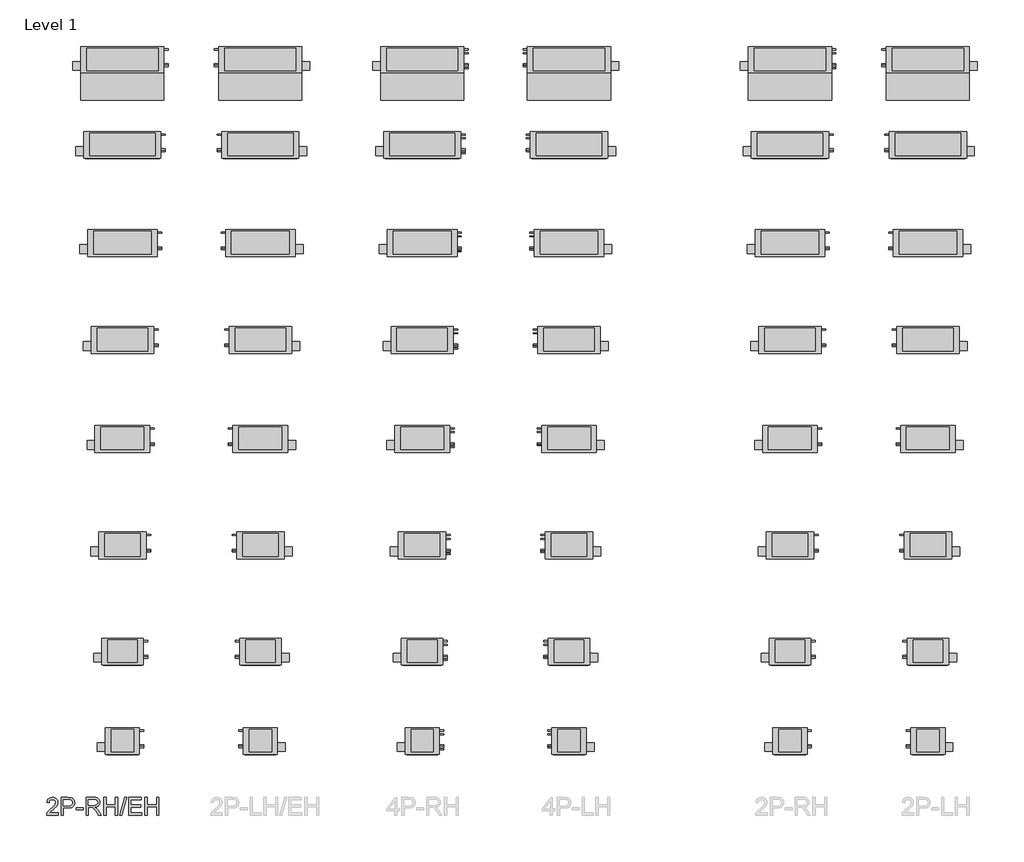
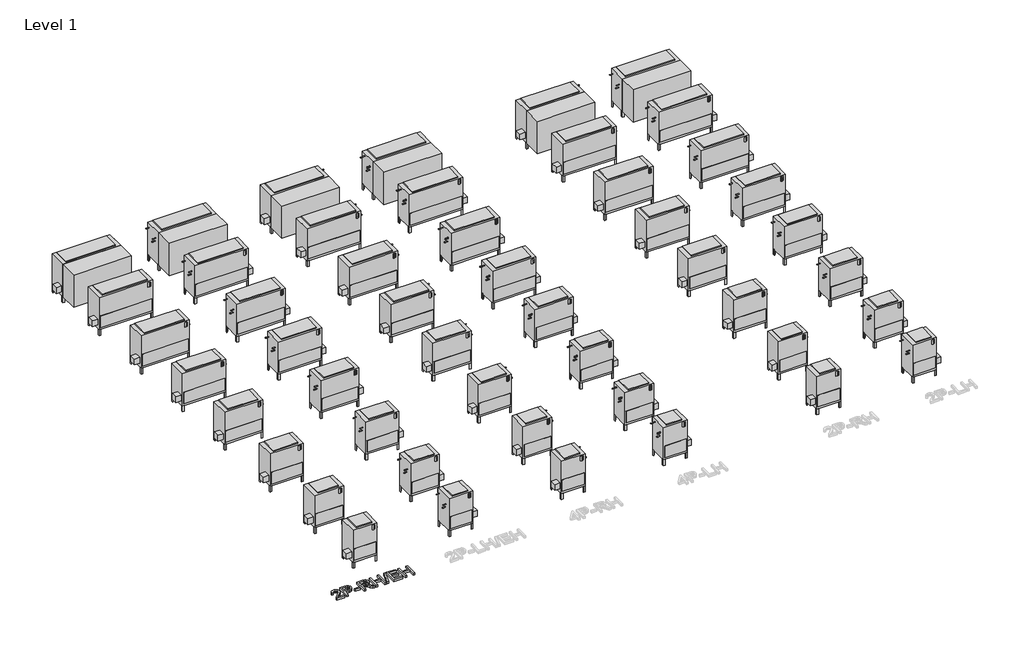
# One storey, part 1 of 2: 49 proxies.
"""IFC4 building model written with IfcOpenShell, lengths in millimetres."""

from ifc_helpers import new_model, si_unit, origin, origin_with_axes, place, context, project, spatial, polyline, outline, extrude, transform, mapped, element, save
from components import mechanical_equipment_c3129180, mechanical_equipment_9b5daf84, mechanical_equipment_52d6ed6b, mechanical_equipment_69e2358a, mechanical_equipment_129ce4c1, mechanical_equipment_91e453f3, mechanical_equipment_4a43bcff, mechanical_equipment_c1bae313, mechanical_equipment_e2ab2f36, mechanical_equipment_ac9d1e8d, mechanical_equipment_70a036e3, mechanical_equipment_6edb243e, mechanical_equipment_3f06e7ef, mechanical_equipment_87862ee8, mechanical_equipment_eca6bfd6, mechanical_equipment_3bcbda2f, mechanical_equipment_fc6682ea, mechanical_equipment_db1e9333, mechanical_equipment_a16d7c03, mechanical_equipment_5b6f974a, mechanical_equipment_4775b9d9, mechanical_equipment_dd0b7da7, mechanical_equipment_b1bf49b5, mechanical_equipment_4bd6c970, mechanical_equipment_8c8115f7, mechanical_equipment_8127be51, mechanical_equipment_42458b22, mechanical_equipment_c711a6c3, mechanical_equipment_d625a45f, mechanical_equipment_3394728d, mechanical_equipment_c5dd5ee2, mechanical_equipment_466fcba0

model = new_model("IFC4")

# Units and contexts
model_context = context("Model", 3, world=origin())
ifc_project = project(units=[si_unit("LENGTHUNIT", "METRE", prefix="MILLI")], contexts=[model_context])

# Site, building, storey
site = spatial("IfcSite", under=ifc_project)
building = spatial("IfcBuilding", under=site)
storey = spatial("IfcBuildingStorey", under=building, Name="Level 1", Elevation=0.0)

# Proxies
placement = place(None, origin())
mechanical_equipment_shape = mechanical_equipment_c3129180(model_context)
element("IfcBuildingElementProxy", 1, Name="Concealed_High_Capacity_Vertical_Fan_Coil_Unit_-_VEY_-_IEC_-_2-Pipe_Cool-EHeat_RH_2022 : Size 20 - 277v/60Hz/1Ph - 6 Row 14.0kW", ObjectType="Concealed_High_Capacity_Vertical_Fan_Coil_Unit_-_VEY_-_IEC_-_2-Pipe_Cool-EHeat_RH_2022 : Size 20 - 277v/60Hz/1Ph - 6 Row 14.0kW", at=placement, inside=storey, context=model_context, shape_type="MappedRepresentation", body=[
    mapped(mechanical_equipment_shape, transform((-23877.766512, 2326.9692455, 0.0), x_axis=(1.0, 0.0, 0.0), y_axis=(0.0, 1.0, 0.0), z_axis=(0.0, 0.0, 1.0))),
])
mechanical_equipment_2_shape = mechanical_equipment_9b5daf84(model_context)
element("IfcBuildingElementProxy", 2, Name="Concealed_High_Capacity_Vertical_Fan_Coil_Unit_-_VEY_-_IEC_-_4-Pipe_RH_2022 : Size 20 - 277v/60Hz/1Ph - 4/2 Coil", ObjectType="Concealed_High_Capacity_Vertical_Fan_Coil_Unit_-_VEY_-_IEC_-_4-Pipe_RH_2022 : Size 20 - 277v/60Hz/1Ph - 4/2 Coil", at=placement, inside=storey, context=model_context, shape_type="MappedRepresentation", body=[
    mapped(mechanical_equipment_2_shape, transform((-18745.6021227, 2326.9692455, 0.0), x_axis=(1.0, 0.0, 0.0), y_axis=(0.0, 1.0, 0.0), z_axis=(0.0, 0.0, 1.0))),
])
element("IfcBuildingElementProxy", 3, Name="Concealed_High_Capacity_Vertical_Fan_Coil_Unit_-_VEY_-_IEC_-_4-Pipe_RH_2022 : Size 20 - 277v/60Hz/1Ph - 4/2 Coil", ObjectType="Concealed_High_Capacity_Vertical_Fan_Coil_Unit_-_VEY_-_IEC_-_4-Pipe_RH_2022 : Size 20 - 277v/60Hz/1Ph - 4/2 Coil", at=placement, inside=storey, context=model_context, shape_type="MappedRepresentation", body=[
    mapped(mechanical_equipment_2_shape, transform((-12447.766512, 2326.9692455, 0.0), x_axis=(1.0, 0.0, 0.0), y_axis=(0.0, 1.0, 0.0), z_axis=(0.0, 0.0, 1.0))),
])
mechanical_equipment_3_shape = mechanical_equipment_52d6ed6b(model_context)
element("IfcBuildingElementProxy", 4, Name="Concealed_High_Capacity_Vertical_Fan_Coil_Unit_-_VEY_-_IEC_-_2-Pipe_Cool-EHeat_RH_2022 : Size 18 - 277v/60Hz/1Ph - 6 Row 12.0kW", ObjectType="Concealed_High_Capacity_Vertical_Fan_Coil_Unit_-_VEY_-_IEC_-_2-Pipe_Cool-EHeat_RH_2022 : Size 18 - 277v/60Hz/1Ph - 6 Row 12.0kW", at=placement, inside=storey, context=model_context, shape_type="MappedRepresentation", body=[
    mapped(mechanical_equipment_3_shape, transform((-23877.766512, 870.7442724, 0.0), x_axis=(1.0, 0.0, 0.0), y_axis=(0.0, 1.0, 0.0), z_axis=(0.0, 0.0, 1.0))),
])
mechanical_equipment_4_shape = mechanical_equipment_69e2358a(model_context)
element("IfcBuildingElementProxy", 5, Name="Concealed_High_Capacity_Vertical_Fan_Coil_Unit_-_VEY_-_IEC_-_2-Pipe_Cool-EHeat_RH_2022 : Size 16 - 277v/60Hz/1Ph - 6 Row 12.0kW", ObjectType="Concealed_High_Capacity_Vertical_Fan_Coil_Unit_-_VEY_-_IEC_-_2-Pipe_Cool-EHeat_RH_2022 : Size 16 - 277v/60Hz/1Ph - 6 Row 12.0kW", at=placement, inside=storey, context=model_context, shape_type="MappedRepresentation", body=[
    mapped(mechanical_equipment_4_shape, transform((-23877.766512, -811.0930206, 0.0), x_axis=(1.0, 0.0, 0.0), y_axis=(0.0, 1.0, 0.0), z_axis=(0.0, 0.0, 1.0))),
])
mechanical_equipment_5_shape = mechanical_equipment_129ce4c1(model_context)
element("IfcBuildingElementProxy", 6, Name="Concealed_High_Capacity_Vertical_Fan_Coil_Unit_-_VEY_-_IEC_-_2-Pipe_Cool-EHeat_RH_2022 : Size 14 - 277v/60Hz/1Ph - 6 Row 10.0kW", ObjectType="Concealed_High_Capacity_Vertical_Fan_Coil_Unit_-_VEY_-_IEC_-_2-Pipe_Cool-EHeat_RH_2022 : Size 14 - 277v/60Hz/1Ph - 6 Row 10.0kW", at=placement, inside=storey, context=model_context, shape_type="MappedRepresentation", body=[
    mapped(mechanical_equipment_5_shape, transform((-23877.766512, -2472.4201026, 0.0), x_axis=(1.0, 0.0, 0.0), y_axis=(0.0, 1.0, 0.0), z_axis=(0.0, 0.0, 1.0))),
])
mechanical_equipment_6_shape = mechanical_equipment_91e453f3(model_context)
element("IfcBuildingElementProxy", 7, Name="Concealed_High_Capacity_Vertical_Fan_Coil_Unit_-_VEY_-_IEC_-_2-Pipe_Cool-EHeat_RH_2022 : Size 12 - 277v/60Hz/1Ph - 6 Row 9.0kW", ObjectType="Concealed_High_Capacity_Vertical_Fan_Coil_Unit_-_VEY_-_IEC_-_2-Pipe_Cool-EHeat_RH_2022 : Size 12 - 277v/60Hz/1Ph - 6 Row 9.0kW", at=placement, inside=storey, context=model_context, shape_type="MappedRepresentation", body=[
    mapped(mechanical_equipment_6_shape, transform((-23877.766512, -4164.512501, 0.0), x_axis=(1.0, 0.0, 0.0), y_axis=(0.0, 1.0, 0.0), z_axis=(0.0, 0.0, 1.0))),
])
mechanical_equipment_7_shape = mechanical_equipment_4a43bcff(model_context)
element("IfcBuildingElementProxy", 8, Name="Concealed_High_Capacity_Vertical_Fan_Coil_Unit_-_VEY_-_IEC_-_2-Pipe_Cool-EHeat_RH_2022 : Size 10 - 277v/60Hz/1Ph - 6 Row 7.0kW", ObjectType="Concealed_High_Capacity_Vertical_Fan_Coil_Unit_-_VEY_-_IEC_-_2-Pipe_Cool-EHeat_RH_2022 : Size 10 - 277v/60Hz/1Ph - 6 Row 7.0kW", at=placement, inside=storey, context=model_context, shape_type="MappedRepresentation", body=[
    mapped(mechanical_equipment_7_shape, transform((-23877.766512, -5991.5877247, 0.0), x_axis=(1.0, 0.0, 0.0), y_axis=(0.0, 1.0, 0.0), z_axis=(0.0, 0.0, 1.0))),
])
mechanical_equipment_8_shape = mechanical_equipment_c1bae313(model_context)
element("IfcBuildingElementProxy", 9, Name="Concealed_High_Capacity_Vertical_Fan_Coil_Unit_-_VEY_-_IEC_-_2-Pipe_Cool-EHeat_RH_2022 : Size 08 - 277v/60Hz/1Ph - 6 Row 6.0kW", ObjectType="Concealed_High_Capacity_Vertical_Fan_Coil_Unit_-_VEY_-_IEC_-_2-Pipe_Cool-EHeat_RH_2022 : Size 08 - 277v/60Hz/1Ph - 6 Row 6.0kW", at=placement, inside=storey, context=model_context, shape_type="MappedRepresentation", body=[
    mapped(mechanical_equipment_8_shape, transform((-23877.766512, -7808.9462361, 0.0), x_axis=(1.0, 0.0, 0.0), y_axis=(0.0, 1.0, 0.0), z_axis=(0.0, 0.0, 1.0))),
])
mechanical_equipment_9_shape = mechanical_equipment_e2ab2f36(model_context)
element("IfcBuildingElementProxy", 10, Name="Concealed_High_Capacity_Vertical_Fan_Coil_Unit_-_VEY_-_IEC_-_2-Pipe_Cool-EHeat_RH_2022 : Size 06 - 277v/60Hz/1Ph - 6 Row 4.0kW", ObjectType="Concealed_High_Capacity_Vertical_Fan_Coil_Unit_-_VEY_-_IEC_-_2-Pipe_Cool-EHeat_RH_2022 : Size 06 - 277v/60Hz/1Ph - 6 Row 4.0kW", at=placement, inside=storey, context=model_context, shape_type="MappedRepresentation", body=[
    mapped(mechanical_equipment_9_shape, transform((-23877.766512, -9341.4948315, 0.0), x_axis=(1.0, 0.0, 0.0), y_axis=(0.0, 1.0, 0.0), z_axis=(0.0, 0.0, 1.0))),
])
mechanical_equipment_10_shape = mechanical_equipment_ac9d1e8d(model_context)
element("IfcBuildingElementProxy", 11, Name="Concealed_High_Capacity_Vertical_Fan_Coil_Unit_-_VEY_-_IEC_-_4-Pipe_RH_2022 : Size 18 - 277v/60Hz/1Ph - 4/2 Coil", ObjectType="Concealed_High_Capacity_Vertical_Fan_Coil_Unit_-_VEY_-_IEC_-_4-Pipe_RH_2022 : Size 18 - 277v/60Hz/1Ph - 4/2 Coil", at=placement, inside=storey, context=model_context, shape_type="MappedRepresentation", body=[
    mapped(mechanical_equipment_10_shape, transform((-18745.6021227, 870.7442724, 0.0), x_axis=(1.0, 0.0, 0.0), y_axis=(0.0, 1.0, 0.0), z_axis=(0.0, 0.0, 1.0))),
])
mechanical_equipment_11_shape = mechanical_equipment_70a036e3(model_context)
element("IfcBuildingElementProxy", 12, Name="Concealed_High_Capacity_Vertical_Fan_Coil_Unit_-_VEY_-_IEC_-_4-Pipe_RH_2022 : Size 16 - 277v/60Hz/1Ph - 4/2 Coil", ObjectType="Concealed_High_Capacity_Vertical_Fan_Coil_Unit_-_VEY_-_IEC_-_4-Pipe_RH_2022 : Size 16 - 277v/60Hz/1Ph - 4/2 Coil", at=placement, inside=storey, context=model_context, shape_type="MappedRepresentation", body=[
    mapped(mechanical_equipment_11_shape, transform((-18745.6021227, -811.0930206, 0.0), x_axis=(1.0, 0.0, 0.0), y_axis=(0.0, 1.0, 0.0), z_axis=(0.0, 0.0, 1.0))),
])
mechanical_equipment_12_shape = mechanical_equipment_6edb243e(model_context)
element("IfcBuildingElementProxy", 13, Name="Concealed_High_Capacity_Vertical_Fan_Coil_Unit_-_VEY_-_IEC_-_4-Pipe_RH_2022 : Size 14 - 277v/60Hz/1Ph - 4/2 Coil", ObjectType="Concealed_High_Capacity_Vertical_Fan_Coil_Unit_-_VEY_-_IEC_-_4-Pipe_RH_2022 : Size 14 - 277v/60Hz/1Ph - 4/2 Coil", at=placement, inside=storey, context=model_context, shape_type="MappedRepresentation", body=[
    mapped(mechanical_equipment_12_shape, transform((-18745.6021227, -2472.4201026, 0.0), x_axis=(1.0, 0.0, 0.0), y_axis=(0.0, 1.0, 0.0), z_axis=(0.0, 0.0, 1.0))),
])
mechanical_equipment_13_shape = mechanical_equipment_3f06e7ef(model_context)
element("IfcBuildingElementProxy", 14, Name="Concealed_High_Capacity_Vertical_Fan_Coil_Unit_-_VEY_-_IEC_-_4-Pipe_RH_2022 : Size 12 - 277v/60Hz/1Ph - 4/2 Coil", ObjectType="Concealed_High_Capacity_Vertical_Fan_Coil_Unit_-_VEY_-_IEC_-_4-Pipe_RH_2022 : Size 12 - 277v/60Hz/1Ph - 4/2 Coil", at=placement, inside=storey, context=model_context, shape_type="MappedRepresentation", body=[
    mapped(mechanical_equipment_13_shape, transform((-18745.6021227, -4164.512501, 0.0), x_axis=(1.0, 0.0, 0.0), y_axis=(0.0, 1.0, 0.0), z_axis=(0.0, 0.0, 1.0))),
])
mechanical_equipment_14_shape = mechanical_equipment_87862ee8(model_context)
element("IfcBuildingElementProxy", 15, Name="Concealed_High_Capacity_Vertical_Fan_Coil_Unit_-_VEY_-_IEC_-_4-Pipe_RH_2022 : Size 10 - 277v/60Hz/1Ph - 4/2 Coil", ObjectType="Concealed_High_Capacity_Vertical_Fan_Coil_Unit_-_VEY_-_IEC_-_4-Pipe_RH_2022 : Size 10 - 277v/60Hz/1Ph - 4/2 Coil", at=placement, inside=storey, context=model_context, shape_type="MappedRepresentation", body=[
    mapped(mechanical_equipment_14_shape, transform((-18745.6021227, -5991.5877247, 0.0), x_axis=(1.0, 0.0, 0.0), y_axis=(0.0, 1.0, 0.0), z_axis=(0.0, 0.0, 1.0))),
])
mechanical_equipment_15_shape = mechanical_equipment_eca6bfd6(model_context)
element("IfcBuildingElementProxy", 16, Name="Concealed_High_Capacity_Vertical_Fan_Coil_Unit_-_VEY_-_IEC_-_4-Pipe_RH_2022 : Size 08 - 277v/60Hz/1Ph - 4/2 Coil", ObjectType="Concealed_High_Capacity_Vertical_Fan_Coil_Unit_-_VEY_-_IEC_-_4-Pipe_RH_2022 : Size 08 - 277v/60Hz/1Ph - 4/2 Coil", at=placement, inside=storey, context=model_context, shape_type="MappedRepresentation", body=[
    mapped(mechanical_equipment_15_shape, transform((-18745.6021227, -7808.9462361, 0.0), x_axis=(1.0, 0.0, 0.0), y_axis=(0.0, 1.0, 0.0), z_axis=(0.0, 0.0, 1.0))),
])
mechanical_equipment_16_shape = mechanical_equipment_3bcbda2f(model_context)
element("IfcBuildingElementProxy", 17, Name="Concealed_High_Capacity_Vertical_Fan_Coil_Unit_-_VEY_-_IEC_-_4-Pipe_RH_2022 : Size 06 - 277v/60Hz/1Ph - 4/2 Coil", ObjectType="Concealed_High_Capacity_Vertical_Fan_Coil_Unit_-_VEY_-_IEC_-_4-Pipe_RH_2022 : Size 06 - 277v/60Hz/1Ph - 4/2 Coil", at=placement, inside=storey, context=model_context, shape_type="MappedRepresentation", body=[
    mapped(mechanical_equipment_16_shape, transform((-18745.6021227, -9341.4948315, 0.0), x_axis=(1.0, 0.0, 0.0), y_axis=(0.0, 1.0, 0.0), z_axis=(0.0, 0.0, 1.0))),
])
mechanical_equipment_17_shape = mechanical_equipment_fc6682ea(model_context)
element("IfcBuildingElementProxy", 18, Name="Concealed_High_Capacity_Vertical_Fan_Coil_Unit_-_VEY_-_IEC_-_2-Pipe_Cool-EHeat_LH_2022 : Size 20 - 277v/60Hz/1Ph - 6 Row 14.0kW", ObjectType="Concealed_High_Capacity_Vertical_Fan_Coil_Unit_-_VEY_-_IEC_-_2-Pipe_Cool-EHeat_LH_2022 : Size 20 - 277v/60Hz/1Ph - 6 Row 14.0kW", at=placement, inside=storey, context=model_context, shape_type="MappedRepresentation", body=[
    mapped(mechanical_equipment_17_shape, transform((-21515.566512, 2326.9692455, 0.0), x_axis=(1.0, 0.0, 0.0), y_axis=(0.0, 1.0, 0.0), z_axis=(0.0, 0.0, 1.0))),
])
mechanical_equipment_18_shape = mechanical_equipment_db1e9333(model_context)
element("IfcBuildingElementProxy", 19, Name="Concealed_High_Capacity_Vertical_Fan_Coil_Unit_-_VEY_-_IEC_-_4-Pipe_LH_2022 : Size 20 - 277v/60Hz/1Ph - 4/2 Coil", ObjectType="Concealed_High_Capacity_Vertical_Fan_Coil_Unit_-_VEY_-_IEC_-_4-Pipe_LH_2022 : Size 20 - 277v/60Hz/1Ph - 4/2 Coil", at=placement, inside=storey, context=model_context, shape_type="MappedRepresentation", body=[
    mapped(mechanical_equipment_18_shape, transform((-16231.0021227, 2326.9692455, 0.0), x_axis=(1.0, 0.0, 0.0), y_axis=(0.0, 1.0, 0.0), z_axis=(0.0, 0.0, 1.0))),
])
mechanical_equipment_19_shape = mechanical_equipment_a16d7c03(model_context)
element("IfcBuildingElementProxy", 20, Name="Concealed_High_Capacity_Vertical_Fan_Coil_Unit_-_VEY_-_IEC_-_2-Pipe_Cool-EHeat_LH_2022 : Size 06 - 277v/60Hz/1Ph - 6 Row 4.0kW", ObjectType="Concealed_High_Capacity_Vertical_Fan_Coil_Unit_-_VEY_-_IEC_-_2-Pipe_Cool-EHeat_LH_2022 : Size 06 - 277v/60Hz/1Ph - 6 Row 4.0kW", at=placement, inside=storey, context=model_context, shape_type="MappedRepresentation", body=[
    mapped(mechanical_equipment_19_shape, transform((-21515.566512, -9341.4948315, 0.0), x_axis=(1.0, 0.0, 0.0), y_axis=(0.0, 1.0, 0.0), z_axis=(0.0, 0.0, 1.0))),
])
mechanical_equipment_20_shape = mechanical_equipment_5b6f974a(model_context)
element("IfcBuildingElementProxy", 21, Name="Concealed_High_Capacity_Vertical_Fan_Coil_Unit_-_VEY_-_IEC_-_2-Pipe_Cool-EHeat_LH_2022 : Size 08 - 277v/60Hz/1Ph - 6 Row 6.0kW", ObjectType="Concealed_High_Capacity_Vertical_Fan_Coil_Unit_-_VEY_-_IEC_-_2-Pipe_Cool-EHeat_LH_2022 : Size 08 - 277v/60Hz/1Ph - 6 Row 6.0kW", at=placement, inside=storey, context=model_context, shape_type="MappedRepresentation", body=[
    mapped(mechanical_equipment_20_shape, transform((-21515.566512, -7808.9462361, 0.0), x_axis=(1.0, 0.0, 0.0), y_axis=(0.0, 1.0, 0.0), z_axis=(0.0, 0.0, 1.0))),
])
mechanical_equipment_21_shape = mechanical_equipment_4775b9d9(model_context)
element("IfcBuildingElementProxy", 22, Name="Concealed_High_Capacity_Vertical_Fan_Coil_Unit_-_VEY_-_IEC_-_2-Pipe_Cool-EHeat_LH_2022 : Size 10 - 277v/60Hz/1Ph - 6 Row 7.0kW", ObjectType="Concealed_High_Capacity_Vertical_Fan_Coil_Unit_-_VEY_-_IEC_-_2-Pipe_Cool-EHeat_LH_2022 : Size 10 - 277v/60Hz/1Ph - 6 Row 7.0kW", at=placement, inside=storey, context=model_context, shape_type="MappedRepresentation", body=[
    mapped(mechanical_equipment_21_shape, transform((-21515.566512, -5991.5877247, 0.0), x_axis=(1.0, 0.0, 0.0), y_axis=(0.0, 1.0, 0.0), z_axis=(0.0, 0.0, 1.0))),
])
mechanical_equipment_22_shape = mechanical_equipment_dd0b7da7(model_context)
element("IfcBuildingElementProxy", 23, Name="Concealed_High_Capacity_Vertical_Fan_Coil_Unit_-_VEY_-_IEC_-_2-Pipe_Cool-EHeat_LH_2022 : Size 12 - 277v/60Hz/1Ph - 6 Row 9.0kW", ObjectType="Concealed_High_Capacity_Vertical_Fan_Coil_Unit_-_VEY_-_IEC_-_2-Pipe_Cool-EHeat_LH_2022 : Size 12 - 277v/60Hz/1Ph - 6 Row 9.0kW", at=placement, inside=storey, context=model_context, shape_type="MappedRepresentation", body=[
    mapped(mechanical_equipment_22_shape, transform((-21515.566512, -4164.512501, 0.0), x_axis=(1.0, 0.0, 0.0), y_axis=(0.0, 1.0, 0.0), z_axis=(0.0, 0.0, 1.0))),
])
mechanical_equipment_23_shape = mechanical_equipment_b1bf49b5(model_context)
element("IfcBuildingElementProxy", 24, Name="Concealed_High_Capacity_Vertical_Fan_Coil_Unit_-_VEY_-_IEC_-_2-Pipe_Cool-EHeat_LH_2022 : Size 14 - 277v/60Hz/1Ph - 6 Row 10.0kW", ObjectType="Concealed_High_Capacity_Vertical_Fan_Coil_Unit_-_VEY_-_IEC_-_2-Pipe_Cool-EHeat_LH_2022 : Size 14 - 277v/60Hz/1Ph - 6 Row 10.0kW", at=placement, inside=storey, context=model_context, shape_type="MappedRepresentation", body=[
    mapped(mechanical_equipment_23_shape, transform((-21515.566512, -2472.4201026, 0.0), x_axis=(1.0, 0.0, 0.0), y_axis=(0.0, 1.0, 0.0), z_axis=(0.0, 0.0, 1.0))),
])
mechanical_equipment_24_shape = mechanical_equipment_4bd6c970(model_context)
element("IfcBuildingElementProxy", 25, Name="Concealed_High_Capacity_Vertical_Fan_Coil_Unit_-_VEY_-_IEC_-_2-Pipe_Cool-EHeat_LH_2022 : Size 16 - 277v/60Hz/1Ph - 6 Row 12.0kW", ObjectType="Concealed_High_Capacity_Vertical_Fan_Coil_Unit_-_VEY_-_IEC_-_2-Pipe_Cool-EHeat_LH_2022 : Size 16 - 277v/60Hz/1Ph - 6 Row 12.0kW", at=placement, inside=storey, context=model_context, shape_type="MappedRepresentation", body=[
    mapped(mechanical_equipment_24_shape, transform((-21515.566512, -811.0930206, 0.0), x_axis=(1.0, 0.0, 0.0), y_axis=(0.0, 1.0, 0.0), z_axis=(0.0, 0.0, 1.0))),
])
mechanical_equipment_25_shape = mechanical_equipment_8c8115f7(model_context)
element("IfcBuildingElementProxy", 26, Name="Concealed_High_Capacity_Vertical_Fan_Coil_Unit_-_VEY_-_IEC_-_2-Pipe_Cool-EHeat_LH_2022 : Size 18 - 277v/60Hz/1Ph - 6 Row 12.0kW", ObjectType="Concealed_High_Capacity_Vertical_Fan_Coil_Unit_-_VEY_-_IEC_-_2-Pipe_Cool-EHeat_LH_2022 : Size 18 - 277v/60Hz/1Ph - 6 Row 12.0kW", at=placement, inside=storey, context=model_context, shape_type="MappedRepresentation", body=[
    mapped(mechanical_equipment_25_shape, transform((-21515.566512, 870.7442724, 0.0), x_axis=(1.0, 0.0, 0.0), y_axis=(0.0, 1.0, 0.0), z_axis=(0.0, 0.0, 1.0))),
])
mechanical_equipment_26_shape = mechanical_equipment_8127be51(model_context)
element("IfcBuildingElementProxy", 27, Name="Concealed_High_Capacity_Vertical_Fan_Coil_Unit_-_VEY_-_IEC_-_4-Pipe_LH_2022 : Size 06 - 277v/60Hz/1Ph - 4/2 Coil", ObjectType="Concealed_High_Capacity_Vertical_Fan_Coil_Unit_-_VEY_-_IEC_-_4-Pipe_LH_2022 : Size 06 - 277v/60Hz/1Ph - 4/2 Coil", at=placement, inside=storey, context=model_context, shape_type="MappedRepresentation", body=[
    mapped(mechanical_equipment_26_shape, transform((-16231.0021227, -9341.4948315, 0.0), x_axis=(1.0, 0.0, 0.0), y_axis=(0.0, 1.0, 0.0), z_axis=(0.0, 0.0, 1.0))),
])
mechanical_equipment_27_shape = mechanical_equipment_42458b22(model_context)
element("IfcBuildingElementProxy", 28, Name="Concealed_High_Capacity_Vertical_Fan_Coil_Unit_-_VEY_-_IEC_-_4-Pipe_LH_2022 : Size 08 - 277v/60Hz/1Ph - 4/2 Coil", ObjectType="Concealed_High_Capacity_Vertical_Fan_Coil_Unit_-_VEY_-_IEC_-_4-Pipe_LH_2022 : Size 08 - 277v/60Hz/1Ph - 4/2 Coil", at=placement, inside=storey, context=model_context, shape_type="MappedRepresentation", body=[
    mapped(mechanical_equipment_27_shape, transform((-16231.0021227, -7808.9462361, 0.0), x_axis=(1.0, 0.0, 0.0), y_axis=(0.0, 1.0, 0.0), z_axis=(0.0, 0.0, 1.0))),
])
mechanical_equipment_28_shape = mechanical_equipment_c711a6c3(model_context)
element("IfcBuildingElementProxy", 29, Name="Concealed_High_Capacity_Vertical_Fan_Coil_Unit_-_VEY_-_IEC_-_4-Pipe_LH_2022 : Size 10 - 277v/60Hz/1Ph - 4/2 Coil", ObjectType="Concealed_High_Capacity_Vertical_Fan_Coil_Unit_-_VEY_-_IEC_-_4-Pipe_LH_2022 : Size 10 - 277v/60Hz/1Ph - 4/2 Coil", at=placement, inside=storey, context=model_context, shape_type="MappedRepresentation", body=[
    mapped(mechanical_equipment_28_shape, transform((-16231.0021227, -5991.5877247, 0.0), x_axis=(1.0, 0.0, 0.0), y_axis=(0.0, 1.0, 0.0), z_axis=(0.0, 0.0, 1.0))),
])
mechanical_equipment_29_shape = mechanical_equipment_d625a45f(model_context)
element("IfcBuildingElementProxy", 30, Name="Concealed_High_Capacity_Vertical_Fan_Coil_Unit_-_VEY_-_IEC_-_4-Pipe_LH_2022 : Size 12 - 277v/60Hz/1Ph - 4/2 Coil", ObjectType="Concealed_High_Capacity_Vertical_Fan_Coil_Unit_-_VEY_-_IEC_-_4-Pipe_LH_2022 : Size 12 - 277v/60Hz/1Ph - 4/2 Coil", at=placement, inside=storey, context=model_context, shape_type="MappedRepresentation", body=[
    mapped(mechanical_equipment_29_shape, transform((-16231.0021227, -4164.512501, 0.0), x_axis=(1.0, 0.0, 0.0), y_axis=(0.0, 1.0, 0.0), z_axis=(0.0, 0.0, 1.0))),
])
mechanical_equipment_30_shape = mechanical_equipment_3394728d(model_context)
element("IfcBuildingElementProxy", 31, Name="Concealed_High_Capacity_Vertical_Fan_Coil_Unit_-_VEY_-_IEC_-_4-Pipe_LH_2022 : Size 14 - 277v/60Hz/1Ph - 4/2 Coil", ObjectType="Concealed_High_Capacity_Vertical_Fan_Coil_Unit_-_VEY_-_IEC_-_4-Pipe_LH_2022 : Size 14 - 277v/60Hz/1Ph - 4/2 Coil", at=placement, inside=storey, context=model_context, shape_type="MappedRepresentation", body=[
    mapped(mechanical_equipment_30_shape, transform((-16231.0021227, -2472.4201026, 0.0), x_axis=(1.0, 0.0, 0.0), y_axis=(0.0, 1.0, 0.0), z_axis=(0.0, 0.0, 1.0))),
])
mechanical_equipment_31_shape = mechanical_equipment_c5dd5ee2(model_context)
element("IfcBuildingElementProxy", 32, Name="Concealed_High_Capacity_Vertical_Fan_Coil_Unit_-_VEY_-_IEC_-_4-Pipe_LH_2022 : Size 16 - 277v/60Hz/1Ph - 4/2 Coil", ObjectType="Concealed_High_Capacity_Vertical_Fan_Coil_Unit_-_VEY_-_IEC_-_4-Pipe_LH_2022 : Size 16 - 277v/60Hz/1Ph - 4/2 Coil", at=placement, inside=storey, context=model_context, shape_type="MappedRepresentation", body=[
    mapped(mechanical_equipment_31_shape, transform((-16231.0021227, -811.0930206, 0.0), x_axis=(1.0, 0.0, 0.0), y_axis=(0.0, 1.0, 0.0), z_axis=(0.0, 0.0, 1.0))),
])
mechanical_equipment_32_shape = mechanical_equipment_466fcba0(model_context)
element("IfcBuildingElementProxy", 33, Name="Concealed_High_Capacity_Vertical_Fan_Coil_Unit_-_VEY_-_IEC_-_4-Pipe_LH_2022 : Size 18 - 277v/60Hz/1Ph - 4/2 Coil", ObjectType="Concealed_High_Capacity_Vertical_Fan_Coil_Unit_-_VEY_-_IEC_-_4-Pipe_LH_2022 : Size 18 - 277v/60Hz/1Ph - 4/2 Coil", at=placement, inside=storey, context=model_context, shape_type="MappedRepresentation", body=[
    mapped(mechanical_equipment_32_shape, transform((-16231.0021227, 870.7442724, 0.0), x_axis=(1.0, 0.0, 0.0), y_axis=(0.0, 1.0, 0.0), z_axis=(0.0, 0.0, 1.0))),
])
element("IfcBuildingElementProxy", 34, Name="Concealed_High_Capacity_Vertical_Fan_Coil_Unit_-_VEY_-_IEC_-_2-Pipe_Cool_LH_2022 : Size 20 - 277v/60Hz/1Ph - 6 Row 14.0kW", ObjectType="Concealed_High_Capacity_Vertical_Fan_Coil_Unit_-_VEY_-_IEC_-_2-Pipe_Cool_LH_2022 : Size 20 - 277v/60Hz/1Ph - 6 Row 14.0kW", at=placement, inside=storey, context=model_context, shape_type="MappedRepresentation", body=[
    mapped(mechanical_equipment_17_shape, transform((-10085.566512, 2326.9692455, 0.0), x_axis=(1.0, 0.0, 0.0), y_axis=(0.0, 1.0, 0.0), z_axis=(0.0, 0.0, 1.0))),
])
element("IfcBuildingElementProxy", 35, Name="Concealed_High_Capacity_Vertical_Fan_Coil_Unit_-_VEY_-_IEC_-_2-Pipe_Cool_RH_2022 : Size 18 - 277v/60Hz/1Ph - 6 Row 12.0kW", ObjectType="Concealed_High_Capacity_Vertical_Fan_Coil_Unit_-_VEY_-_IEC_-_2-Pipe_Cool_RH_2022 : Size 18 - 277v/60Hz/1Ph - 6 Row 12.0kW", at=placement, inside=storey, context=model_context, shape_type="MappedRepresentation", body=[
    mapped(mechanical_equipment_3_shape, transform((-12447.766512, 870.7442724, 0.0), x_axis=(1.0, 0.0, 0.0), y_axis=(0.0, 1.0, 0.0), z_axis=(0.0, 0.0, 1.0))),
])
element("IfcBuildingElementProxy", 36, Name="Concealed_High_Capacity_Vertical_Fan_Coil_Unit_-_VEY_-_IEC_-_2-Pipe_Cool_RH_2022 : Size 16 - 277v/60Hz/1Ph - 6 Row 12.0kW", ObjectType="Concealed_High_Capacity_Vertical_Fan_Coil_Unit_-_VEY_-_IEC_-_2-Pipe_Cool_RH_2022 : Size 16 - 277v/60Hz/1Ph - 6 Row 12.0kW", at=placement, inside=storey, context=model_context, shape_type="MappedRepresentation", body=[
    mapped(mechanical_equipment_4_shape, transform((-12447.766512, -811.0930206, 0.0), x_axis=(1.0, 0.0, 0.0), y_axis=(0.0, 1.0, 0.0), z_axis=(0.0, 0.0, 1.0))),
])
element("IfcBuildingElementProxy", 37, Name="Concealed_High_Capacity_Vertical_Fan_Coil_Unit_-_VEY_-_IEC_-_2-Pipe_Cool_RH_2022 : Size 14 - 277v/60Hz/1Ph - 6 Row 10.0kW", ObjectType="Concealed_High_Capacity_Vertical_Fan_Coil_Unit_-_VEY_-_IEC_-_2-Pipe_Cool_RH_2022 : Size 14 - 277v/60Hz/1Ph - 6 Row 10.0kW", at=placement, inside=storey, context=model_context, shape_type="MappedRepresentation", body=[
    mapped(mechanical_equipment_5_shape, transform((-12447.766512, -2472.4201026, 0.0), x_axis=(1.0, 0.0, 0.0), y_axis=(0.0, 1.0, 0.0), z_axis=(0.0, 0.0, 1.0))),
])
element("IfcBuildingElementProxy", 38, Name="Concealed_High_Capacity_Vertical_Fan_Coil_Unit_-_VEY_-_IEC_-_2-Pipe_Cool_RH_2022 : Size 12 - 277v/60Hz/1Ph - 6 Row 9.0kW", ObjectType="Concealed_High_Capacity_Vertical_Fan_Coil_Unit_-_VEY_-_IEC_-_2-Pipe_Cool_RH_2022 : Size 12 - 277v/60Hz/1Ph - 6 Row 9.0kW", at=placement, inside=storey, context=model_context, shape_type="MappedRepresentation", body=[
    mapped(mechanical_equipment_6_shape, transform((-12447.766512, -4164.512501, 0.0), x_axis=(1.0, 0.0, 0.0), y_axis=(0.0, 1.0, 0.0), z_axis=(0.0, 0.0, 1.0))),
])
element("IfcBuildingElementProxy", 39, Name="Concealed_High_Capacity_Vertical_Fan_Coil_Unit_-_VEY_-_IEC_-_2-Pipe_Cool_RH_2022 : Size 10 - 277v/60Hz/1Ph - 6 Row 7.0kW", ObjectType="Concealed_High_Capacity_Vertical_Fan_Coil_Unit_-_VEY_-_IEC_-_2-Pipe_Cool_RH_2022 : Size 10 - 277v/60Hz/1Ph - 6 Row 7.0kW", at=placement, inside=storey, context=model_context, shape_type="MappedRepresentation", body=[
    mapped(mechanical_equipment_7_shape, transform((-12447.766512, -5991.5877247, 0.0), x_axis=(1.0, 0.0, 0.0), y_axis=(0.0, 1.0, 0.0), z_axis=(0.0, 0.0, 1.0))),
])
element("IfcBuildingElementProxy", 40, Name="Concealed_High_Capacity_Vertical_Fan_Coil_Unit_-_VEY_-_IEC_-_2-Pipe_Cool_RH_2022 : Size 08 - 277v/60Hz/1Ph - 6 Row 6.0kW", ObjectType="Concealed_High_Capacity_Vertical_Fan_Coil_Unit_-_VEY_-_IEC_-_2-Pipe_Cool_RH_2022 : Size 08 - 277v/60Hz/1Ph - 6 Row 6.0kW", at=placement, inside=storey, context=model_context, shape_type="MappedRepresentation", body=[
    mapped(mechanical_equipment_8_shape, transform((-12447.766512, -7808.9462361, 0.0), x_axis=(1.0, 0.0, 0.0), y_axis=(0.0, 1.0, 0.0), z_axis=(0.0, 0.0, 1.0))),
])
element("IfcBuildingElementProxy", 41, Name="Concealed_High_Capacity_Vertical_Fan_Coil_Unit_-_VEY_-_IEC_-_2-Pipe_Cool_RH_2022 : Size 06 - 277v/60Hz/1Ph - 6 Row 4.0kW", ObjectType="Concealed_High_Capacity_Vertical_Fan_Coil_Unit_-_VEY_-_IEC_-_2-Pipe_Cool_RH_2022 : Size 06 - 277v/60Hz/1Ph - 6 Row 4.0kW", at=placement, inside=storey, context=model_context, shape_type="MappedRepresentation", body=[
    mapped(mechanical_equipment_9_shape, transform((-12447.766512, -9341.4948315, 0.0), x_axis=(1.0, 0.0, 0.0), y_axis=(0.0, 1.0, 0.0), z_axis=(0.0, 0.0, 1.0))),
])
element("IfcBuildingElementProxy", 42, Name="Concealed_High_Capacity_Vertical_Fan_Coil_Unit_-_VEY_-_IEC_-_2-Pipe_Cool_LH_2022 : Size 06 - 277v/60Hz/1Ph - 6 Row 4.0kW", ObjectType="Concealed_High_Capacity_Vertical_Fan_Coil_Unit_-_VEY_-_IEC_-_2-Pipe_Cool_LH_2022 : Size 06 - 277v/60Hz/1Ph - 6 Row 4.0kW", at=placement, inside=storey, context=model_context, shape_type="MappedRepresentation", body=[
    mapped(mechanical_equipment_19_shape, transform((-10085.566512, -9341.4948315, 0.0), x_axis=(1.0, 0.0, 0.0), y_axis=(0.0, 1.0, 0.0), z_axis=(0.0, 0.0, 1.0))),
])
element("IfcBuildingElementProxy", 43, Name="Concealed_High_Capacity_Vertical_Fan_Coil_Unit_-_VEY_-_IEC_-_2-Pipe_Cool_LH_2022 : Size 08 - 277v/60Hz/1Ph - 6 Row 6.0kW", ObjectType="Concealed_High_Capacity_Vertical_Fan_Coil_Unit_-_VEY_-_IEC_-_2-Pipe_Cool_LH_2022 : Size 08 - 277v/60Hz/1Ph - 6 Row 6.0kW", at=placement, inside=storey, context=model_context, shape_type="MappedRepresentation", body=[
    mapped(mechanical_equipment_20_shape, transform((-10085.566512, -7808.9462361, 0.0), x_axis=(1.0, 0.0, 0.0), y_axis=(0.0, 1.0, 0.0), z_axis=(0.0, 0.0, 1.0))),
])
element("IfcBuildingElementProxy", 44, Name="Concealed_High_Capacity_Vertical_Fan_Coil_Unit_-_VEY_-_IEC_-_2-Pipe_Cool_LH_2022 : Size 10 - 277v/60Hz/1Ph - 6 Row 7.0kW", ObjectType="Concealed_High_Capacity_Vertical_Fan_Coil_Unit_-_VEY_-_IEC_-_2-Pipe_Cool_LH_2022 : Size 10 - 277v/60Hz/1Ph - 6 Row 7.0kW", at=placement, inside=storey, context=model_context, shape_type="MappedRepresentation", body=[
    mapped(mechanical_equipment_21_shape, transform((-10085.566512, -5991.5877247, 0.0), x_axis=(1.0, 0.0, 0.0), y_axis=(0.0, 1.0, 0.0), z_axis=(0.0, 0.0, 1.0))),
])
element("IfcBuildingElementProxy", 45, Name="Concealed_High_Capacity_Vertical_Fan_Coil_Unit_-_VEY_-_IEC_-_2-Pipe_Cool_LH_2022 : Size 12 - 277v/60Hz/1Ph - 6 Row 9.0kW", ObjectType="Concealed_High_Capacity_Vertical_Fan_Coil_Unit_-_VEY_-_IEC_-_2-Pipe_Cool_LH_2022 : Size 12 - 277v/60Hz/1Ph - 6 Row 9.0kW", at=placement, inside=storey, context=model_context, shape_type="MappedRepresentation", body=[
    mapped(mechanical_equipment_22_shape, transform((-10085.566512, -4164.512501, 0.0), x_axis=(1.0, 0.0, 0.0), y_axis=(0.0, 1.0, 0.0), z_axis=(0.0, 0.0, 1.0))),
])
element("IfcBuildingElementProxy", 46, Name="Concealed_High_Capacity_Vertical_Fan_Coil_Unit_-_VEY_-_IEC_-_2-Pipe_Cool_LH_2022 : Size 14 - 277v/60Hz/1Ph - 6 Row 10.0kW", ObjectType="Concealed_High_Capacity_Vertical_Fan_Coil_Unit_-_VEY_-_IEC_-_2-Pipe_Cool_LH_2022 : Size 14 - 277v/60Hz/1Ph - 6 Row 10.0kW", at=placement, inside=storey, context=model_context, shape_type="MappedRepresentation", body=[
    mapped(mechanical_equipment_23_shape, transform((-10085.566512, -2472.4201026, 0.0), x_axis=(1.0, 0.0, 0.0), y_axis=(0.0, 1.0, 0.0), z_axis=(0.0, 0.0, 1.0))),
])
element("IfcBuildingElementProxy", 47, Name="Concealed_High_Capacity_Vertical_Fan_Coil_Unit_-_VEY_-_IEC_-_2-Pipe_Cool_LH_2022 : Size 16 - 277v/60Hz/1Ph - 6 Row 12.0kW", ObjectType="Concealed_High_Capacity_Vertical_Fan_Coil_Unit_-_VEY_-_IEC_-_2-Pipe_Cool_LH_2022 : Size 16 - 277v/60Hz/1Ph - 6 Row 12.0kW", at=placement, inside=storey, context=model_context, shape_type="MappedRepresentation", body=[
    mapped(mechanical_equipment_24_shape, transform((-10085.566512, -811.0930206, 0.0), x_axis=(1.0, 0.0, 0.0), y_axis=(0.0, 1.0, 0.0), z_axis=(0.0, 0.0, 1.0))),
])
element("IfcBuildingElementProxy", 48, Name="Concealed_High_Capacity_Vertical_Fan_Coil_Unit_-_VEY_-_IEC_-_2-Pipe_Cool_LH_2022 : Size 18 - 277v/60Hz/1Ph - 6 Row 12.0kW", ObjectType="Concealed_High_Capacity_Vertical_Fan_Coil_Unit_-_VEY_-_IEC_-_2-Pipe_Cool_LH_2022 : Size 18 - 277v/60Hz/1Ph - 6 Row 12.0kW", at=placement, inside=storey, context=model_context, shape_type="MappedRepresentation", body=[
    mapped(mechanical_equipment_25_shape, transform((-10085.566512, 870.7442724, 0.0), x_axis=(1.0, 0.0, 0.0), y_axis=(0.0, 1.0, 0.0), z_axis=(0.0, 0.0, 1.0))),
])
element("IfcBuildingElementProxy", 49, Name="24\" Arial", ObjectType="24\" Arial", at=placement, inside=storey, context=model_context, shape_type="SweptSolid", body=[
    extrude(outline(polyline([(-24824.7732104, -10811.5794629), (-24824.7732104, -10849.6503497), (-25024.6453659, -10849.6503497), (-25020.5557199, -10823.4022578), (-25011.1681233, -10802.8889651), (-24997.4306304, -10782.9891192), (-24977.5586685, -10762.1598084), (-24949.7676648, -10738.8581206), (-24908.6853114, -10702.3673244), (-24884.0358994, -10675.4314284), (-24871.7111934, -10653.5704114), (-24867.602958, -10632.304252), (-24871.4788271, -10613.2409247), (-24883.1064344, -10597.3935463), (-24900.9800465, -10586.7139933), (-24923.5939301, -10583.1541424), (-24947.3417611, -10586.6303415), (-24965.7916415, -10597.0589389), (-24977.6980883, -10613.6220053), (-24981.8156183, -10635.5016116), (-25019.886505, -10630.7427508), (-25016.6124646, -10611.0892132), (-25010.6569175, -10593.9173472), (-25002.0198639, -10579.2271527), (-24990.7013038, -10567.0186298), (-24976.9614873, -10557.4219036), (-24961.0606646, -10550.5670991), (-24922.7760009, -10545.0832556), (-24902.3719203, -10546.6075782), (-24884.2124977, -10551.1805461), (-24868.2977331, -10558.8021591), (-24854.6276265, -10569.4724174), (-24843.6483211, -10582.4012757), (-24835.8059601, -10596.7986887), (-24831.1005435, -10612.6646564), (-24829.5320713, -10629.9991788), (-24831.2236976, -10648.2073983), (-24836.2985765, -10666.0995997), (-24845.3050925, -10684.2985246), (-24858.7916297, -10703.4269145), (-24880.2901554, -10726.2638698), (-24913.3326364, -10755.5884908), (-24957.1290277, -10792.2094121), (-24974.305541, -10811.5794629), (-24824.7732104, -10811.5794629)])), origin_with_axes(), (0.0, 0.0, 1.0), 50.8),
    extrude(outline(polyline([(-24772.4257411, -10849.6503497), (-24772.4257411, -10545.0832556), (-24659.5515105, -10545.0832556), (-24614.0449036, -10547.9831864), (-24593.7546825, -10553.4019674), (-24577.0521963, -10562.2225904), (-24563.6028376, -10574.8447252), (-24553.0719991, -10591.6680418), (-24546.2683152, -10611.5121198), (-24544.0004206, -10633.1965384), (-24545.5317142, -10651.8927271), (-24550.125595, -10669.0924771), (-24557.782063, -10684.7957884), (-24568.5011182, -10699.002661), (-24583.2168729, -10710.7789827), (-24602.8634396, -10719.190641), (-24627.4408181, -10724.237636), (-24656.9490084, -10725.9199677), (-24734.3548544, -10725.9199677), (-24734.3548544, -10849.6503497), (-24772.4257411, -10849.6503497)]), holes=[polyline([(-24734.3548544, -10687.8490809), (-24654.7182924, -10687.8490809), (-24620.9601233, -10684.3542925), (-24598.6529631, -10673.8699272), (-24586.2167213, -10657.0466106), (-24582.0713073, -10634.534968), (-24584.5158003, -10617.4328119), (-24591.8492792, -10603.0075149), (-24603.1608684, -10592.1513636), (-24617.5396921, -10585.7566444), (-24655.6105788, -10583.1541424), (-24734.3548544, -10583.1541424), (-24734.3548544, -10687.8490809)])]), origin_with_axes(), (0.0, 0.0, 1.0), 50.8),
    extrude(outline(polyline([(-24515.4472555, -10759.2319936), (-24515.4472555, -10721.1611069), (-24396.4757344, -10721.1611069), (-24396.4757344, -10759.2319936), (-24515.4472555, -10759.2319936)])), origin_with_axes(), (0.0, 0.0, 1.0), 50.8),
    extrude(outline(polyline([(-24348.8871259, -10849.6503497), (-24348.8871259, -10545.0832556), (-24217.6466667, -10545.0832556), (-24182.3734696, -10547.1373733), (-24156.7109407, -10553.2997263), (-24137.9543368, -10564.676378), (-24123.3989148, -10582.3733917), (-24114.0577915, -10604.3180606), (-24110.9440837, -10628.4376776), (-24116.1026145, -10658.4408081), (-24131.5782069, -10683.3132917), (-24143.3010843, -10693.4491076), (-24157.8355934, -10701.5493952), (-24195.3395065, -10711.6433852), (-24173.7015611, -10727.9276121), (-24142.8433228, -10767.1138569), (-24092.0573547, -10849.6503497), (-24136.2998891, -10849.6503497), (-24175.9322771, -10786.5210863), (-24204.5597994, -10744.7323395), (-24224.6734222, -10724.9905027), (-24242.7794005, -10717.7406756), (-24264.8634891, -10716.402246), (-24310.8162392, -10716.402246), (-24310.8162392, -10849.6503497), (-24348.8871259, -10849.6503497)]), holes=[polyline([(-24310.8162392, -10678.3313593), (-24225.6028872, -10678.3313593), (-24201.1300735, -10676.983635), (-24182.1411034, -10672.9404622), (-24167.8459315, -10665.932296), (-24157.4545127, -10655.6895916), (-24151.124856, -10643.2998231), (-24149.0149704, -10629.8504644), (-24153.0395539, -10611.2797535), (-24165.1133044, -10596.3153669), (-24185.8868473, -10586.4444485), (-24216.0108083, -10583.1541424), (-24310.8162392, -10583.1541424), (-24310.8162392, -10678.3313593)])]), origin_with_axes(), (0.0, 0.0, 1.0), 50.8),
    extrude(outline(polyline([(-24044.3200319, -10849.6503497), (-24044.3200319, -10545.0832556), (-24006.2491451, -10545.0832556), (-24006.2491451, -10668.8136376), (-23844.4478764, -10668.8136376), (-23844.4478764, -10545.0832556), (-23806.3769896, -10545.0832556), (-23806.3769896, -10849.6503497), (-23844.4478764, -10849.6503497), (-23844.4478764, -10706.8845243), (-24006.2491451, -10706.8845243), (-24006.2491451, -10849.6503497), (-24044.3200319, -10849.6503497)])), origin_with_axes(), (0.0, 0.0, 1.0), 50.8),
    extrude(outline(polyline([(-23773.0649637, -10849.6503497), (-23687.4054685, -10545.0832556), (-23653.0524418, -10545.0832556), (-23738.711937, -10849.6503497), (-23773.0649637, -10849.6503497)])), origin_with_axes(), (0.0, 0.0, 1.0), 50.8),
    extrude(outline(polyline([(-23620.7814167, -10849.6503497), (-23620.7814167, -10545.0832556), (-23401.8738178, -10545.0832556), (-23401.8738178, -10583.1541424), (-23582.7105299, -10583.1541424), (-23582.7105299, -10673.5724984), (-23411.3915395, -10673.5724984), (-23411.3915395, -10711.6433852), (-23582.7105299, -10711.6433852), (-23582.7105299, -10811.5794629), (-23397.114957, -10811.5794629), (-23397.114957, -10849.6503497), (-23620.7814167, -10849.6503497)])), origin_with_axes(), (0.0, 0.0, 1.0), 50.8),
    extrude(outline(polyline([(-23340.0086268, -10849.6503497), (-23340.0086268, -10545.0832556), (-23301.9377401, -10545.0832556), (-23301.9377401, -10668.8136376), (-23140.1364713, -10668.8136376), (-23140.1364713, -10545.0832556), (-23102.0655846, -10545.0832556), (-23102.0655846, -10849.6503497), (-23140.1364713, -10849.6503497), (-23140.1364713, -10706.8845243), (-23301.9377401, -10706.8845243), (-23301.9377401, -10849.6503497), (-23340.0086268, -10849.6503497)])), origin_with_axes(), (0.0, 0.0, 1.0), 50.8),
])

save(model, "model.ifc")
